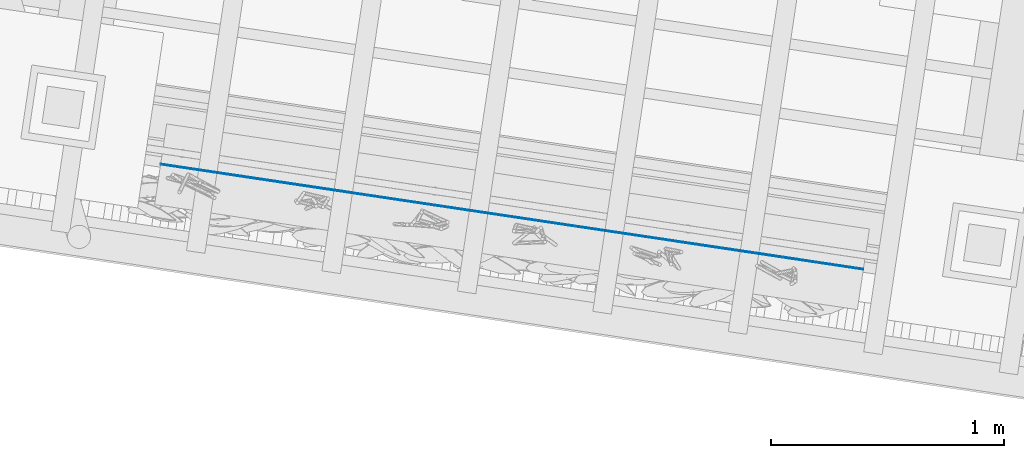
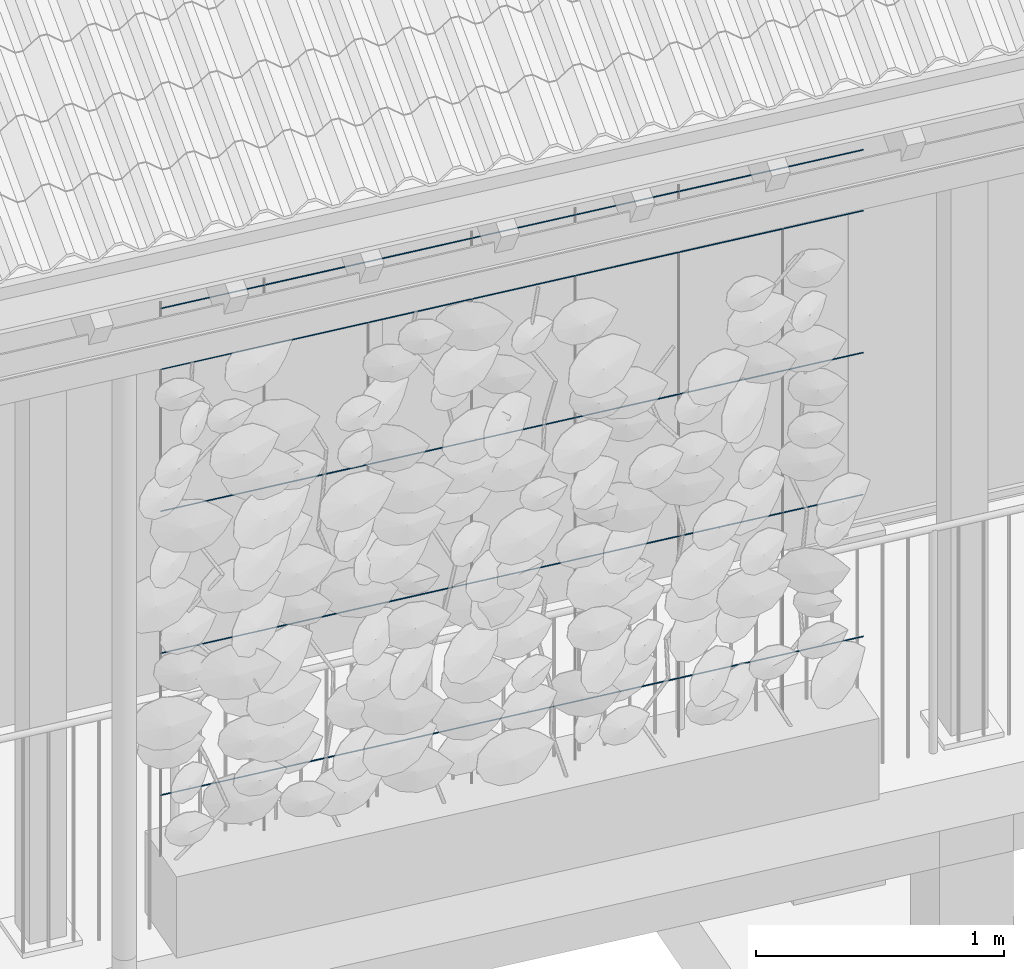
# One storey, part 19 of 131: 5 members, 1 element without a shape of its own.
"""IFC4 building model written with IfcOpenShell, lengths in metres."""

from ifc_helpers import new_model, si_unit, direction, frame, origin_with_axes, place, context, subcontext, project, spatial, circle, extrude, material, material_profile, profile_set, profile_usage, type_object, element, aggregate, save


model = new_model("IFC4")

# Units and contexts
model_context = context("Model", 3, precision=1e-05, world=origin_with_axes(), true_north=direction((0.0, 1.0)))
body_context = subcontext(model_context, "Body", "Model", "MODEL_VIEW")
ifc_project = project(units=[si_unit("AREAUNIT", "SQUARE_METRE"), si_unit("VOLUMEUNIT", "CUBIC_METRE"), si_unit("LENGTHUNIT", "METRE")], contexts=[model_context])

# Site, building, storey
site_placement = place(None, origin_with_axes())
site = spatial("IfcSite", under=ifc_project, at=site_placement, Name="Lares · Rua das Mercês · artigo 4771")
building_placement = place(site_placement, frame((15.0, 9.7, 14.65), z_axis=(0.0, 0.0, 1.0), x_axis=(0.989015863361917, -0.147809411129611, 0.0)))
building = spatial("IfcBuilding", under=site, at=building_placement, Name="Casa Sobreposta")
storey_placement = place(building_placement, origin_with_axes())
storey = spatial("IfcBuildingStorey", under=building, at=storey_placement, Name="00 · Habitação e estacionamento", Elevation=14.65)

# Assembly, members
assembly_placement = place(storey_placement, origin_with_axes())
assembly = element("IfcElementAssembly", 1, at=assembly_placement, inside=storey, Name="Fachada sul e pátio · estrutura e trepadeiras", ObjectType="LIVING_SHADE_TRELLIS", PredefinedType="USERDEFINED")
ifc_material = material(Name="Aço galvanizado / Stahl verzinkt", Category="steel")
ifc_material_profile = material_profile(ifc_material, circle(Radius=0.002))
ifc_profile_set = profile_set([ifc_material_profile], Name="D0.004")
ifc_profile_usage_1 = profile_usage(ifc_profile_set)
member_type = type_object("IfcMemberType", Name="D0.004 / galvanized", PredefinedType="NOTDEFINED", material=ifc_profile_set)
member_1_placement = place(assembly_placement, frame((0.45, -1.61, 0.65), z_axis=(1.0, 0.0, 0.0), x_axis=(0.0, -1.0, 0.0)))
member_1 = element("IfcMember", 2, at=member_1_placement, type_object=member_type, material=ifc_profile_usage_1, Name="Trepadeiras · fio horizontal", context=body_context, shape_type="SweptSolid", body=[
    extrude(circle(Radius=0.002), origin_with_axes(), (0.0, 0.0, 1.0), 3.05),
])
ifc_profile_usage_2 = profile_usage(ifc_profile_set)
member_2_placement = place(assembly_placement, frame((0.45, -1.61, 1.35), z_axis=(1.0, 0.0, 0.0), x_axis=(0.0, -1.0, 0.0)))
member_2 = element("IfcMember", 3, at=member_2_placement, type_object=member_type, material=ifc_profile_usage_2, Name="Trepadeiras · fio horizontal", context=body_context, shape_type="SweptSolid", body=[
    extrude(circle(Radius=0.002), origin_with_axes(), (0.0, 0.0, 1.0), 3.05),
])
ifc_profile_usage_3 = profile_usage(ifc_profile_set)
member_3_placement = place(assembly_placement, frame((0.45, -1.61, 2.05), z_axis=(1.0, 0.0, 0.0), x_axis=(0.0, -1.0, 0.0)))
member_3 = element("IfcMember", 4, at=member_3_placement, type_object=member_type, material=ifc_profile_usage_3, Name="Trepadeiras · fio horizontal", context=body_context, shape_type="SweptSolid", body=[
    extrude(circle(Radius=0.002), origin_with_axes(), (0.0, 0.0, 1.0), 3.05),
])
ifc_profile_usage_4 = profile_usage(ifc_profile_set)
member_4_placement = place(assembly_placement, frame((0.45, -1.61, 2.75), z_axis=(1.0, 0.0, 0.0), x_axis=(0.0, -1.0, 0.0)))
member_4 = element("IfcMember", 5, at=member_4_placement, type_object=member_type, material=ifc_profile_usage_4, Name="Trepadeiras · fio horizontal", context=body_context, shape_type="SweptSolid", body=[
    extrude(circle(Radius=0.002), origin_with_axes(), (0.0, 0.0, 1.0), 3.05),
])
ifc_profile_usage_5 = profile_usage(ifc_profile_set)
member_5_placement = place(assembly_placement, frame((0.45, -1.61, 3.05), z_axis=(1.0, 0.0, 0.0), x_axis=(0.0, -1.0, 0.0)))
member_5 = element("IfcMember", 6, at=member_5_placement, type_object=member_type, material=ifc_profile_usage_5, Name="Trepadeiras · fio horizontal", context=body_context, shape_type="SweptSolid", body=[
    extrude(circle(Radius=0.002), origin_with_axes(), (0.0, 0.0, 1.0), 3.05),
])
aggregate(assembly, [member_1, member_2, member_3, member_4, member_5])

save(model, "model.ifc")
